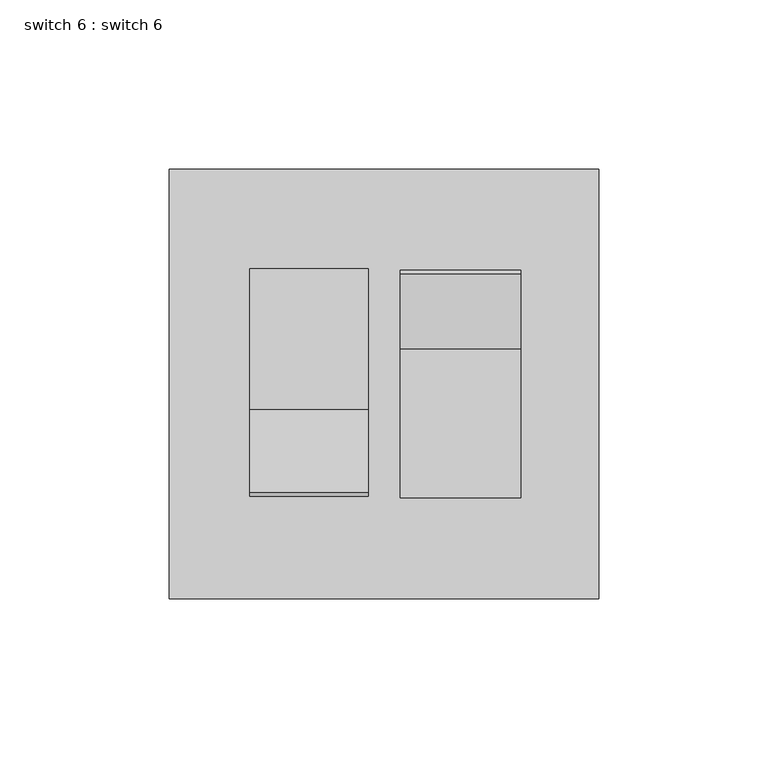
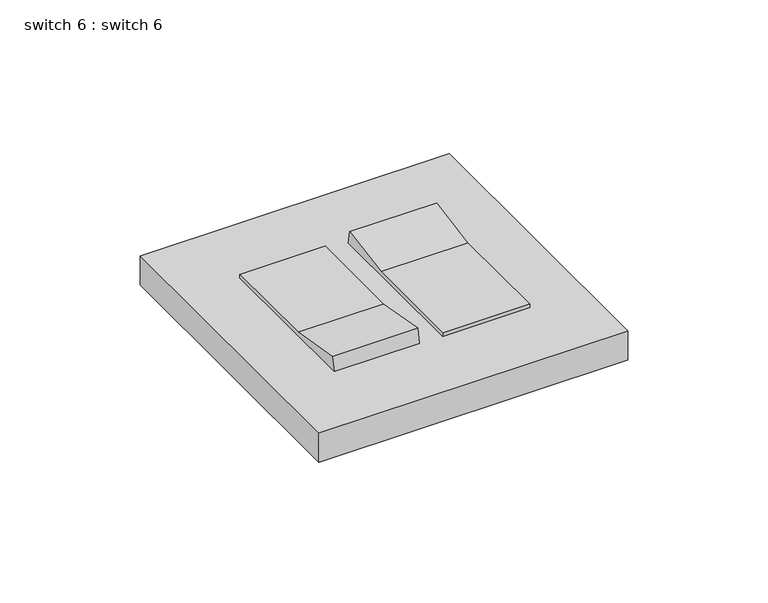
"""IFC4 building model written with IfcOpenShell, lengths in millimetres: proxy geometry, switch 6 : switch 6."""

from ifc_helpers import new_model, si_unit, frame, origin, origin_with_axes, place, context, project, spatial, polyline, outline, extrude, source, transform, mapped, element, save


def switch_6_switch_6_e364368d(model_context):
    return source(origin(), model_context, "Body", "SweptSolid", [
        extrude(outline(polyline([(97.0490549, 12.7), (29.93613, 12.7), (29.93613, 14.2887413), (73.7783841, 14.2887413), (95.979213, 18.2038595), (97.0490549, 12.7)])), frame((4.7406492, 0.0, 0.0), z_axis=(1.0, 0.0, 0.0), x_axis=(0.0, 1.0, 0.0)), (0.0, 0.0, 1.0), 35.7293627),
        extrude(outline(polyline([(30.3911342, 12.7), (31.5373973, 18.5970125), (55.967615, 14.2887413), (97.5040591, 14.2887413), (97.5040591, 12.7), (30.3911342, 12.7)])), frame((-39.6662098, 0.0, 0.0), z_axis=(1.0, 0.0, 0.0), x_axis=(0.0, 1.0, 0.0)), (0.0, 0.0, 1.0), 35.0668999),
        extrude(outline(polyline([(-63.5, 127.0), (63.5, 127.0), (63.5, 0.0), (-63.5, 0.0), (-63.5, 127.0)])), origin_with_axes(), (0.0, 0.0, 1.0), 12.7),
    ])


if __name__ == "__main__":
    model = new_model("IFC4")
    model_context = context("Model", 3, world=origin())
    ifc_project = project(units=[si_unit("LENGTHUNIT", "METRE", prefix="MILLI")], contexts=[model_context])
    site = spatial("IfcSite", under=ifc_project)
    building = spatial("IfcBuilding", under=site)
    placement = place(None, origin())
    switch_6_switch_6_shape = switch_6_switch_6_e364368d(model_context)
    element("IfcBuildingElementProxy", 1, Name="switch 6 : switch 6", ObjectType="switch 6 : switch 6", at=placement, inside=building, context=model_context, shape_type="MappedRepresentation", body=[
        mapped(switch_6_switch_6_shape, transform((0.0, 0.0, 0.0), x_axis=(1.0, 0.0, 0.0), y_axis=(0.0, 1.0, 0.0), z_axis=(0.0, 0.0, 1.0))),
    ])
    save(model, "model.ifc")
